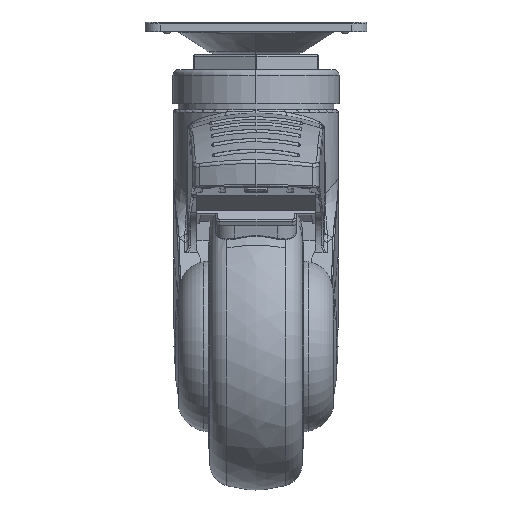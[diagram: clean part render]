
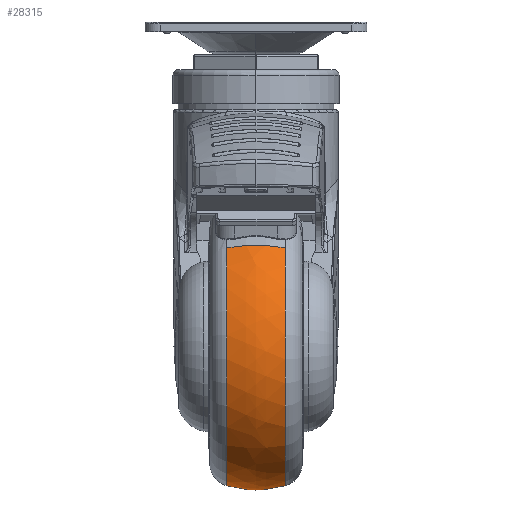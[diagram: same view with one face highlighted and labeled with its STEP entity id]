
A CAD part, front view. The second image highlights one B-rep face of the part: STEP entity #28315.
In plain terms, the highlighted free-form (B-spline) face has degree [3, 3] with [7, 4] control points.
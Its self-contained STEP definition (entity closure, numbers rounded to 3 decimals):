
#466=CARTESIAN_POINT('',(0.,-30.303,
-4.197));
#467=DIRECTION('',(0.,-0.707,-0.707));
#468=DIRECTION('',(0.253,-0.684,0.684));
#469=AXIS2_PLACEMENT_3D('',#466,#467,#468);
#647=CARTESIAN_POINT('',(0.,-19.697,
-14.803));
#648=DIRECTION('',(0.,-0.707,-0.707));
#649=DIRECTION('',(-0.253,0.684,-0.684));
#650=AXIS2_PLACEMENT_3D('',#647,#648,#649);
#9163=CARTESIAN_POINT('',(7.597,-25.,
-9.5));
#9164=DIRECTION('',(1.,0.,0.));
#9165=DIRECTION('',(0.,-0.707,0.707));
#9166=AXIS2_PLACEMENT_3D('',#9163,#9164,#9165);
#9168=CARTESIAN_POINT('',(7.597,-25.,
-9.5));
#9169=DIRECTION('',(1.,0.,0.));
#9170=DIRECTION('',(0.,-0.711,0.703));
#9171=AXIS2_PLACEMENT_3D('',#9168,#9169,#9170);
#9173=CARTESIAN_POINT('',(-7.597,-25.,
-9.5));
#9174=DIRECTION('',(-1.,0.,0.));
#9175=DIRECTION('',(0.,0.707,-0.707));
#9176=AXIS2_PLACEMENT_3D('',#9173,#9174,#9175);
#9178=CARTESIAN_POINT('',(-7.597,-25.,
-9.5));
#9179=DIRECTION('',(-1.,0.,0.));
#9180=DIRECTION('',(0.,-0.711,0.703));
#9181=AXIS2_PLACEMENT_3D('',#9178,#9179,#9180);
#11220=CARTESIAN_POINT('',(7.597,-50.825,
16.325));
#11221=VERTEX_POINT('',#11220);
#11222=CARTESIAN_POINT('',(-7.597,-50.825,
16.325));
#11223=VERTEX_POINT('',#11222);
#11228=CARTESIAN_POINT('',(7.597,0.825,
-35.325));
#11229=VERTEX_POINT('',#11228);
#11233=CARTESIAN_POINT('',(-7.597,0.825,
-35.325));
#11234=VERTEX_POINT('',#11233);
#11237=CARTESIAN_POINT('',(7.597,-50.966,
16.183));
#11238=VERTEX_POINT('',#11237);
#11540=CARTESIAN_POINT('',(-7.597,-50.966,
16.183));
#11541=VERTEX_POINT('',#11540);
#28278=CARTESIAN_POINT('',(-7.894,-49.1,
17.836));
#28279=CARTESIAN_POINT('',(-2.695,-50.038,
18.899));
#28280=CARTESIAN_POINT('',(2.695,-50.038,
18.899));
#28281=CARTESIAN_POINT('',(7.894,-49.1,
17.836));
#28282=CARTESIAN_POINT('',(-7.894,-65.923,
3.004));
#28283=CARTESIAN_POINT('',(-2.695,-67.515,
3.491));
#28284=CARTESIAN_POINT('',(2.695,-67.515,
3.491));
#28285=CARTESIAN_POINT('',(7.894,-65.923,
3.004));
#28286=CARTESIAN_POINT('',(-7.894,-66.627,
-19.411));
#28287=CARTESIAN_POINT('',(-2.695,-68.247,
-19.797));
#28288=CARTESIAN_POINT('',(2.695,-68.247,
-19.797));
#28289=CARTESIAN_POINT('',(7.894,-66.627,
-19.411));
#28290=CARTESIAN_POINT('',(-7.894,-50.769,
-35.269));
#28291=CARTESIAN_POINT('',(-2.695,-51.772,
-36.272));
#28292=CARTESIAN_POINT('',(2.695,-51.772,
-36.272));
#28293=CARTESIAN_POINT('',(7.894,-50.769,
-35.269));
#28294=CARTESIAN_POINT('',(-7.894,-34.911,
-51.127));
#28295=CARTESIAN_POINT('',(-2.695,-35.296,
-52.747));
#28296=CARTESIAN_POINT('',(2.695,-35.296,
-52.747));
#28297=CARTESIAN_POINT('',(7.894,-34.911,
-51.127));
#28298=CARTESIAN_POINT('',(-7.894,-12.495,
-50.422));
#28299=CARTESIAN_POINT('',(-2.695,-12.009,
-52.015));
#28300=CARTESIAN_POINT('',(2.695,-12.009,
-52.015));
#28301=CARTESIAN_POINT('',(7.894,-12.495,
-50.422));
#28302=CARTESIAN_POINT('',(-7.894,2.336,
-33.6));
#28303=CARTESIAN_POINT('',(-2.695,3.4,
-34.538));
#28304=CARTESIAN_POINT('',(2.695,3.4,
-34.538));
#28305=CARTESIAN_POINT('',(7.894,2.336,
-33.6));
#28306=(BOUNDED_SURFACE()B_SPLINE_SURFACE(3,3,((#28278,#28279,#28280,#28281),(
#28282,#28283,#28284,#28285),(#28286,#28287,#28288,#28289),(#28290,#28291,
#28292,#28293),(#28294,#28295,#28296,#28297),(#28298,#28299,#28300,#28301),(
#28302,#28303,#28304,#28305)),.UNSPECIFIED.,.F.,.F.,.F.)B_SPLINE_SURFACE_WITH_KNOTS((4,3,4),(4,4),(0.,1.,2.),(0.,1.),.UNSPECIFIED.)GEOMETRIC_REPRESENTATION_ITEM()RATIONAL_B_SPLINE_SURFACE(((1.209,1.18,
1.18,1.209),(0.954,0.932,
0.932,0.954),(0.954,0.932,
0.932,0.954),(1.209,1.18,
1.18,1.209),(0.954,0.932,
0.932,0.954),(0.954,0.932,
0.932,0.954),(1.209,1.18,
1.18,1.209)))REPRESENTATION_ITEM('')SURFACE());
#28307=ORIENTED_EDGE('',*,*,#13671,.F.);
#28308=ORIENTED_EDGE('',*,*,#13695,.T.);
#28309=ORIENTED_EDGE('',*,*,#13693,.T.);
#28310=ORIENTED_EDGE('',*,*,#13811,.F.);
#28311=ORIENTED_EDGE('',*,*,#13845,.T.);
#28312=ORIENTED_EDGE('',*,*,#13843,.T.);
#28313=EDGE_LOOP('',(#28307,#28308,#28309,#28310,#28311,#28312));
#28314=FACE_OUTER_BOUND('',#28313,.F.);
#28315=ADVANCED_FACE('',(#28314),#28306,.T.);
#470=CIRCLE('',#469,30.);
#651=CIRCLE('',#650,30.);
#9167=CIRCLE('',#9166,36.522);
#9172=CIRCLE('',#9171,36.522);
#9177=CIRCLE('',#9176,36.522);
#9182=CIRCLE('',#9181,36.522);
#13671=EDGE_CURVE('',#11221,#11223,#470,.T.);
#13693=EDGE_CURVE('',#11238,#11229,#9172,.T.);
#13695=EDGE_CURVE('',#11221,#11238,#9167,.T.);
#13811=EDGE_CURVE('',#11234,#11229,#651,.T.);
#13843=EDGE_CURVE('',#11541,#11223,#9182,.T.);
#13845=EDGE_CURVE('',#11234,#11541,#9177,.T.);
